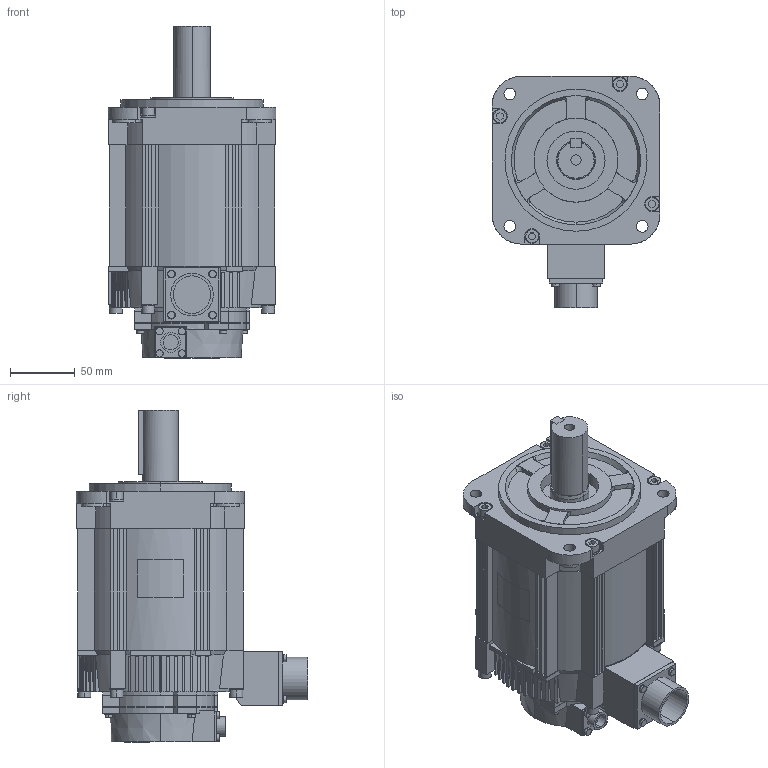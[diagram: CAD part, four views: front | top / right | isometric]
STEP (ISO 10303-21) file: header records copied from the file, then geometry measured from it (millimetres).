
FILE_DESCRIPTION (( 'STEP AP203' ), '1' );
FILE_NAME ('sgm7a_30a_a61.STEP', '2016-02-18T23:39:46', ( '匠エンジニアリング山之内' ), ( 'TAKUMI-Engniaring' ), 'SwSTEP 2.0', 'SolidWorks 2006303', '' );
FILE_SCHEMA (( 'CONFIG_CONTROL_DESIGN' ));
Length unit declared in the file: millimetre
Products named in the file (3): sgm7a_30a_a61_base; sgm7a_30a_a61_key; sgm7a_30a_a61
Assembly tree (2 placements, depth 2):
  sgm7a_30a_a61
    sgm7a_30a_a61_key
    sgm7a_30a_a61_base
Bounding box: 130 x 179 x 257.1 mm (x, y, z)
Volume: 2464620.8 mm3; surface area: 174737.6 mm2
Topology: 2 solids, 2 shells, 723 faces, 1913 edges, 1257 vertices
Faces by surface type: plane 486, cylinder 211, cone 20, bspline 6
Entity records: 23162 total; most frequent: CARTESIAN_POINT 4661, ORIENTED_EDGE 3826, DIRECTION 3776, EDGE_CURVE 1913, AXIS2_PLACEMENT_3D 1285, VERTEX_POINT 1257, LINE 1206, VECTOR 1206
